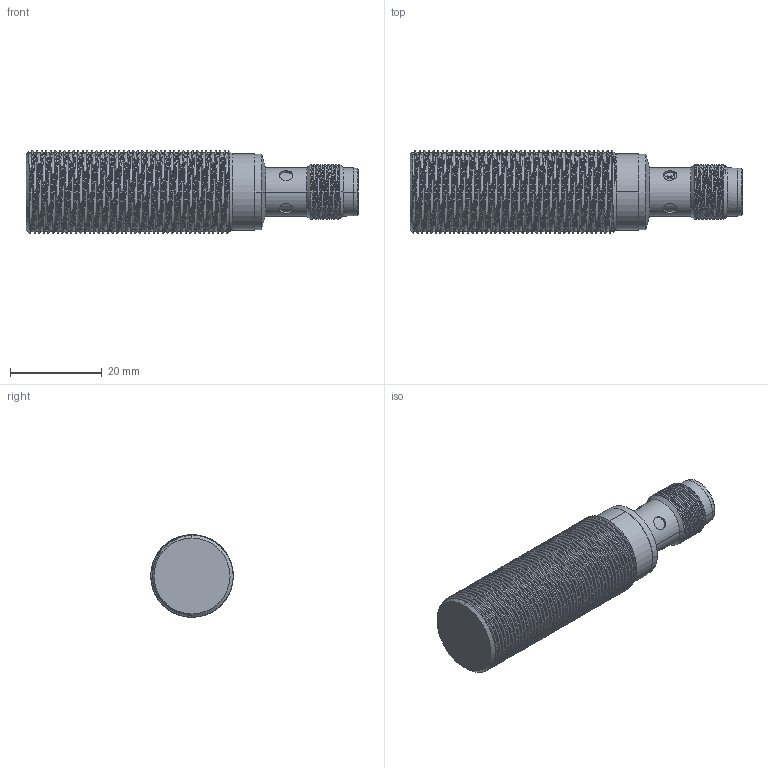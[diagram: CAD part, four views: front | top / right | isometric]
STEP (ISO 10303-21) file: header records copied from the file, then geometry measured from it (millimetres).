
FILE_DESCRIPTION((''),'2;1');
FILE_NAME('M18FLUSHPLUG_ASM','2020-10-28T',('Daisy.Wang'),(''),'CREO PARAMETRIC BY PTC INC, 2015480','CREO PARAMETRIC BY PTC INC, 2015480','');
FILE_SCHEMA(('CONFIG_CONTROL_DESIGN'));
Length unit declared in the file: millimetre
Products named in the file (12): MECK106-M18-FLUSH-HOUSING; M18D15; M18COPPER-FOIL-COIL; M18FLUSHCOIL; MECK107-M18-REARPART; M18-COIL-SUPPORT; M18LONG_FLUSH_PLUG_PCB; M12CONNECTOR; PIN_FULLMETAL; ORING-PLUGM12; CONNECTOR-PIN_ASM; M18FLUSHPLUG_ASM
Assembly tree (14 placements, depth 3):
  M18FLUSHPLUG_ASM
    MECK106-M18-FLUSH-HOUSING
    M18D15
    M18COPPER-FOIL-COIL
    M18FLUSHCOIL
    MECK107-M18-REARPART
    M18-COIL-SUPPORT
    M18LONG_FLUSH_PLUG_PCB
    CONNECTOR-PIN_ASM
      M12CONNECTOR
      PIN_FULLMETAL  x4
      ORING-PLUGM12
Bounding box: 72.5 x 18 x 18 mm (x, y, z)
Volume: 5034.8 mm3; surface area: 13763.4 mm2
Topology: 12 solids, 13 shells, 534 faces, 1340 edges, 834 vertices
Faces by surface type: cylinder 234, plane 119, bspline 74, cone 62, torus 37, sphere 8
Entity records: 34873 total; most frequent: CARTESIAN_POINT 23540, ORIENTED_EDGE 2457, DIRECTION 2086, EDGE_CURVE 1236, AXIS2_PLACEMENT_3D 810, VERTEX_POINT 777, EDGE_LOOP 525, FACE_OUTER_BOUND 489
